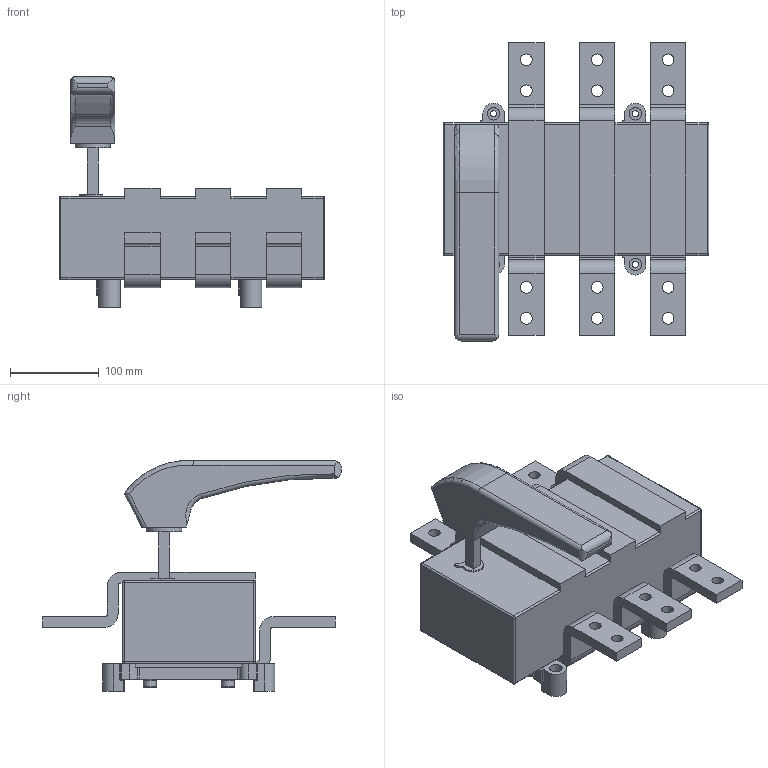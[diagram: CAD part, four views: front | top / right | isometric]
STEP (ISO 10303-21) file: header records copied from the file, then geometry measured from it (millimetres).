
FILE_DESCRIPTION(/* description */ (''),/* implementation_level */ '2;1');
FILE_NAME(/* name */ 'RA 1250 P3-R.stp',/* time_stamp */ '2021-08-19T09:11:11+02:00',/* author */ (''),/* organization */ (''),/* preprocessor_version */ 'ST-DEVELOPER v18.1',/* originating_system */ 'SIEMENS PLM Software NX 1965',/* authorisation */ '');
FILE_SCHEMA (('INTEGRATED_CNC_SCHEMA'));
Length unit declared in the file: millimetre
Products named in the file (1): RA 1250 P3-R_stp
Bounding box: 300 x 337 x 260 mm (x, y, z)
Volume: 5493481.7 mm3; surface area: 361330.1 mm2
Topology: 1 solids, 1 shells, 435 faces, 1151 edges, 710 vertices
Faces by surface type: cylinder 170, plane 149, torus 50, bspline 50, cone 8, sphere 8
Full cylindrical faces by diameter (mm): 4.8 x4, 5.6 x4, 7 x4, 13 x12, 13.5 x4, 14 x4, 15 x4, 40 x1
Entity records: 15743 total; most frequent: CARTESIAN_POINT 5436, ORIENTED_EDGE 2124, DIRECTION 2106, EDGE_CURVE 1062, AXIS2_PLACEMENT_3D 792, VERTEX_POINT 694, EDGE_LOOP 524, LINE 522
